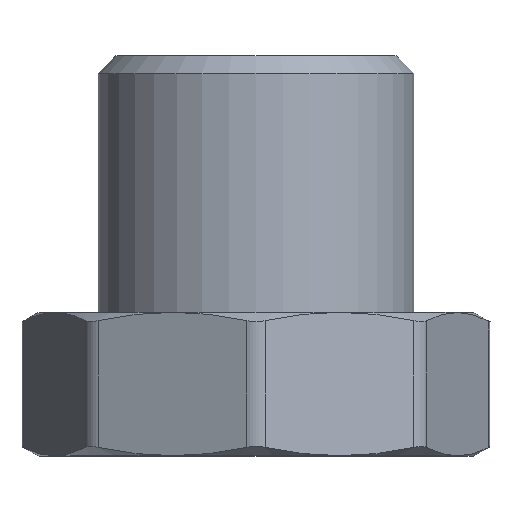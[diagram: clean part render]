
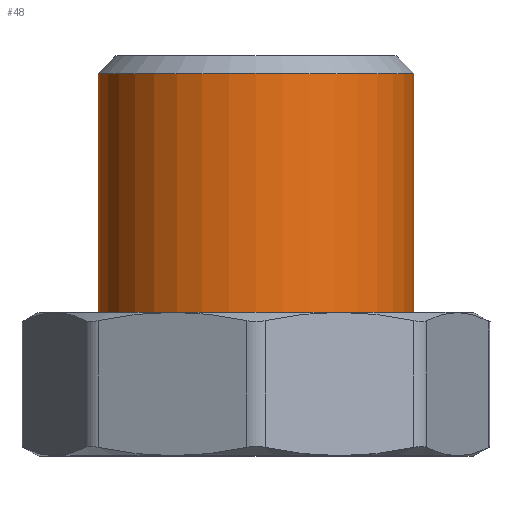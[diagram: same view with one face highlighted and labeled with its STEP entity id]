
A CAD part, top view. The second image highlights one B-rep face of the part: STEP entity #48.
In plain terms, the highlighted cylindrical face has radius 13.22 mm (diameter 26.441 mm), a full revolution.
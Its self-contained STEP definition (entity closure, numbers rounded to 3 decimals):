
#48=ADVANCED_FACE('',(#252,#254),#256,.T.);
#252=FACE_OUTER_BOUND('',#253,.T.);
#253=EDGE_LOOP('',(#1425));
#254=FACE_OUTER_BOUND('',#255,.T.);
#255=EDGE_LOOP('',(#1426));
#256=CYLINDRICAL_SURFACE('',#257,13.221);
#257=AXIS2_PLACEMENT_3D('',#258,#259,#260);
#258=CARTESIAN_POINT('',(0.,-31.,0.));
#259=DIRECTION('',(0.,1.,0.));
#260=DIRECTION('',(-1.,0.,0.));
#1425=ORIENTED_EDGE('',*,*,#2516,.F.);
#1426=ORIENTED_EDGE('',*,*,#2511,.F.);
#2511=EDGE_CURVE('',#2952,#2952,#2953,.F.);
#2516=EDGE_CURVE('',#2962,#2962,#2963,.T.);
#2952=VERTEX_POINT('',#3697);
#2953=CIRCLE('',#3698,13.221);
#2962=VERTEX_POINT('',#3722);
#2963=CIRCLE('',#3723,13.221);
#3697=CARTESIAN_POINT('',(-13.221,-23.5,0.));
#3698=AXIS2_PLACEMENT_3D('',#3699,#3700,#3701);
#3699=CARTESIAN_POINT('',(0.,-23.5,0.));
#3700=DIRECTION('',(0.,1.,0.));
#3701=DIRECTION('',(-1.,0.,0.));
#3722=CARTESIAN_POINT('',(-13.221,-1.5,0.));
#3723=AXIS2_PLACEMENT_3D('',#3724,#3725,#3726);
#3724=CARTESIAN_POINT('',(0.,-1.5,0.));
#3725=DIRECTION('',(0.,1.,0.));
#3726=DIRECTION('',(-1.,0.,0.));
